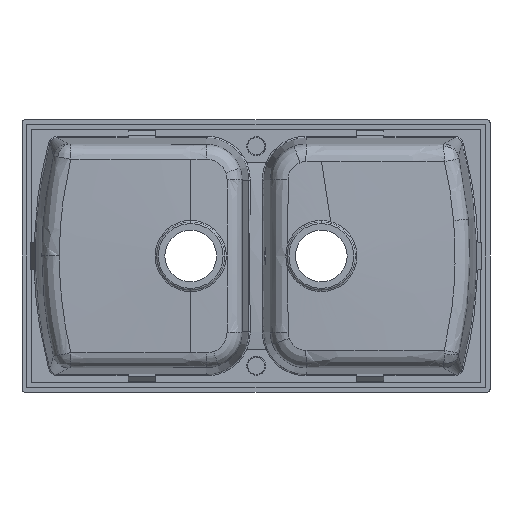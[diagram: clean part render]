
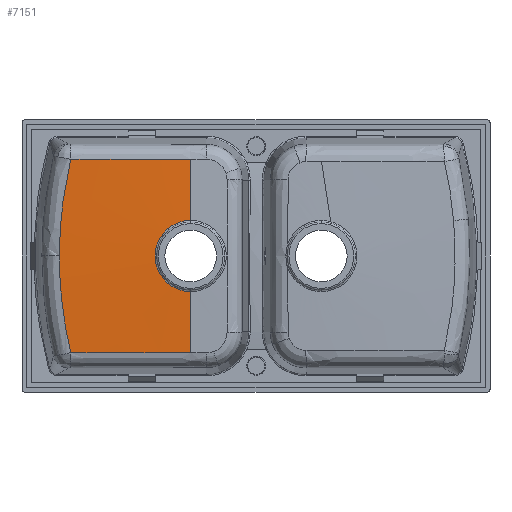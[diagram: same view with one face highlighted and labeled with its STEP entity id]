
A CAD part, front view. The second image highlights one B-rep face of the part: STEP entity #7151.
In plain terms, the highlighted conical face has half-angle 88.542 degrees and reference radius 57.704 mm.
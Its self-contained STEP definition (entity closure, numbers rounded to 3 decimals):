
#5270=CARTESIAN_POINT('Vertex',(68.703,-210.324,-249.685)) ;
#5313=CARTESIAN_POINT('Vertex',(89.556,-209.258,-427.758)) ;
#5317=CARTESIAN_POINT('Control Point',(68.703,-210.324,-249.685)) ;
#5318=CARTESIAN_POINT('Control Point',(68.697,-210.324,-264.875)) ;
#5319=CARTESIAN_POINT('Control Point',(69.586,-210.275,-295.187)) ;
#5320=CARTESIAN_POINT('Control Point',(72.93,-210.093,-332.894)) ;
#5321=CARTESIAN_POINT('Control Point',(76.441,-209.908,-359.186)) ;
#5322=CARTESIAN_POINT('Control Point',(81.018,-209.673,-388.476)) ;
#5323=CARTESIAN_POINT('Control Point',(85.346,-209.458,-410.05)) ;
#5324=CARTESIAN_POINT('Control Point',(89.556,-209.258,-427.758)) ;
#5350=CARTESIAN_POINT('Control Point',(89.556,-209.258,-72.242)) ;
#5351=CARTESIAN_POINT('Control Point',(82.717,-209.582,-101.013)) ;
#5352=CARTESIAN_POINT('Control Point',(72.294,-210.12,-159.708)) ;
#5353=CARTESIAN_POINT('Control Point',(68.717,-210.324,-219.305)) ;
#5354=CARTESIAN_POINT('Control Point',(68.703,-210.324,-249.685)) ;
#5355=CARTESIAN_POINT('Vertex',(89.556,-209.258,-72.242)) ;
#5533=CARTESIAN_POINT('Control Point',(310.,-211.939,-72.164)) ;
#5534=CARTESIAN_POINT('Control Point',(298.879,-211.939,-72.164)) ;
#5535=CARTESIAN_POINT('Control Point',(266.933,-211.864,-72.171)) ;
#5536=CARTESIAN_POINT('Control Point',(214.197,-211.389,-72.208)) ;
#5537=CARTESIAN_POINT('Control Point',(151.845,-210.448,-72.242)) ;
#5538=CARTESIAN_POINT('Control Point',(110.315,-209.669,-72.245)) ;
#5539=CARTESIAN_POINT('Control Point',(89.556,-209.258,-72.242)) ;
#5540=CARTESIAN_POINT('Vertex',(310.,-211.94,-72.164)) ;
#7099=CARTESIAN_POINT('Axis2P3D Location',(310.,-214.997,-250.)) ;
#7104=CARTESIAN_POINT('Line Origine',(310.,12507.21,-500116.952)) ;
#7108=CARTESIAN_POINT('Vertex',(310.,-214.802,-315.37)) ;
#7110=CARTESIAN_POINT('Vertex',(310.,-211.94,-427.836)) ;
#7113=CARTESIAN_POINT('Axis2P3D Location',(310.,-214.802,-250.)) ;
#7117=CARTESIAN_POINT('Vertex',(310.,-214.802,-184.63)) ;
#7120=CARTESIAN_POINT('Line Origine',(310.,12507.21,499616.952)) ;
#7126=CARTESIAN_POINT('Control Point',(310.,-211.94,-427.836)) ;
#7127=CARTESIAN_POINT('Control Point',(292.83,-211.94,-427.836)) ;
#7128=CARTESIAN_POINT('Control Point',(275.66,-211.887,-427.831)) ;
#7129=CARTESIAN_POINT('Control Point',(258.592,-211.781,-427.822)) ;
#7130=CARTESIAN_POINT('Control Point',(231.445,-211.543,-427.804)) ;
#7131=CARTESIAN_POINT('Control Point',(204.867,-211.216,-427.787)) ;
#7132=CARTESIAN_POINT('Control Point',(194.901,-211.081,-427.782)) ;
#7133=CARTESIAN_POINT('Control Point',(172.466,-210.756,-427.77)) ;
#7134=CARTESIAN_POINT('Control Point',(150.466,-210.393,-427.761)) ;
#7135=CARTESIAN_POINT('Control Point',(138.268,-210.181,-427.758)) ;
#7136=CARTESIAN_POINT('Control Point',(121.185,-209.87,-427.756)) ;
#7137=CARTESIAN_POINT('Control Point',(104.306,-209.547,-427.756)) ;
#7138=CARTESIAN_POINT('Control Point',(99.373,-209.451,-427.757)) ;
#7139=CARTESIAN_POINT('Control Point',(94.457,-209.355,-427.757)) ;
#7140=CARTESIAN_POINT('Control Point',(89.556,-209.258,-427.758)) ;
#7100=DIRECTION('Axis2P3D Direction',(0.,1.,0.)) ;
#7101=DIRECTION('Axis2P3D XDirection',(0.,0.,-1.)) ;
#7105=DIRECTION('Vector Direction',(0.,0.025,-1.)) ;
#7114=DIRECTION('Axis2P3D Direction',(0.,1.,0.)) ;
#7121=DIRECTION('Vector Direction',(0.,0.025,1.)) ;
#7102=AXIS2_PLACEMENT_3D('Cone Axis2P3D',#7099,#7100,#7101) ;
#7115=AXIS2_PLACEMENT_3D('Circle Axis2P3D',#7113,#7114,$) ;
#7143=ORIENTED_EDGE('',*,*,#7112,.F.) ;
#7144=ORIENTED_EDGE('',*,*,#7119,.T.) ;
#7145=ORIENTED_EDGE('',*,*,#7124,.T.) ;
#7146=ORIENTED_EDGE('',*,*,#5542,.F.) ;
#7147=ORIENTED_EDGE('',*,*,#5357,.F.) ;
#7148=ORIENTED_EDGE('',*,*,#5325,.F.) ;
#7149=ORIENTED_EDGE('',*,*,#7141,.F.) ;
#7106=VECTOR('Line Direction',#7105,1.) ;
#7122=VECTOR('Line Direction',#7121,1.) ;
#7151=ADVANCED_FACE('Lavello',(#7150),#7103,.T.) ;
#7125=B_SPLINE_CURVE_WITH_KNOTS('',5,(#7126,#7127,#7128,#7129,#7130,#7131,#7132,#7133,#7134,#7135,#7136,#7137,#7138,#7139,#7140),.UNSPECIFIED.,.F.,.U.,(6,3,3,3,6),(0.,98.377,158.202,234.303,265.867),.UNSPECIFIED.) ;
#7116=CIRCLE('generated circle',#7115,65.37) ;
#7103=CONICAL_SURFACE('Cone',#7102,57.704,1.545) ;
#5325=EDGE_CURVE('',#5314,#5271,#5316,.F.) ;
#5357=EDGE_CURVE('',#5271,#5356,#5349,.F.) ;
#5542=EDGE_CURVE('',#5356,#5541,#5532,.F.) ;
#7112=EDGE_CURVE('',#7109,#7111,#7107,.T.) ;
#7119=EDGE_CURVE('',#7109,#7118,#7116,.T.) ;
#7124=EDGE_CURVE('',#7118,#5541,#7123,.T.) ;
#7141=EDGE_CURVE('',#7111,#5314,#7125,.T.) ;
#7142=EDGE_LOOP('',(#7143,#7144,#7145,#7146,#7147,#7148,#7149)) ;
#7150=FACE_OUTER_BOUND('',#7142,.T.) ;
#7107=LINE('Line',#7104,#7106) ;
#7123=LINE('Line',#7120,#7122) ;
#5271=VERTEX_POINT('',#5270) ;
#5314=VERTEX_POINT('',#5313) ;
#5356=VERTEX_POINT('',#5355) ;
#5541=VERTEX_POINT('',#5540) ;
#7109=VERTEX_POINT('',#7108) ;
#7111=VERTEX_POINT('',#7110) ;
#7118=VERTEX_POINT('',#7117) ;
#5316=(BOUNDED_CURVE()B_SPLINE_CURVE(3,(#5317,#5318,#5319,#5320,#5321,#5322,#5323,#5324),.UNSPECIFIED.,.F.,.U.)B_SPLINE_CURVE_WITH_KNOTS((4,1,1,1,1,4),(186.859,233.439,280.018,303.308,314.953,370.968),.UNSPECIFIED.)CURVE()GEOMETRIC_REPRESENTATION_ITEM()RATIONAL_B_SPLINE_CURVE((1.,1.,1.,1.,1.,1.,1.,1.))REPRESENTATION_ITEM('')) ;
#5349=(BOUNDED_CURVE()B_SPLINE_CURVE(3,(#5350,#5351,#5352,#5353,#5354),.UNSPECIFIED.,.F.,.U.)B_SPLINE_CURVE_WITH_KNOTS((4,1,4),(2.751,93.7,186.859),.UNSPECIFIED.)CURVE()GEOMETRIC_REPRESENTATION_ITEM()RATIONAL_B_SPLINE_CURVE((1.,1.,1.,1.,1.))REPRESENTATION_ITEM('')) ;
#5532=(BOUNDED_CURVE()B_SPLINE_CURVE(3,(#5533,#5534,#5535,#5536,#5537,#5538,#5539),.UNSPECIFIED.,.F.,.U.)B_SPLINE_CURVE_WITH_KNOTS((4,1,1,1,4),(29.049,62.334,124.669,187.003,249.338),.UNSPECIFIED.)CURVE()GEOMETRIC_REPRESENTATION_ITEM()RATIONAL_B_SPLINE_CURVE((1.,1.,1.,1.,1.,1.,1.))REPRESENTATION_ITEM('')) ;
